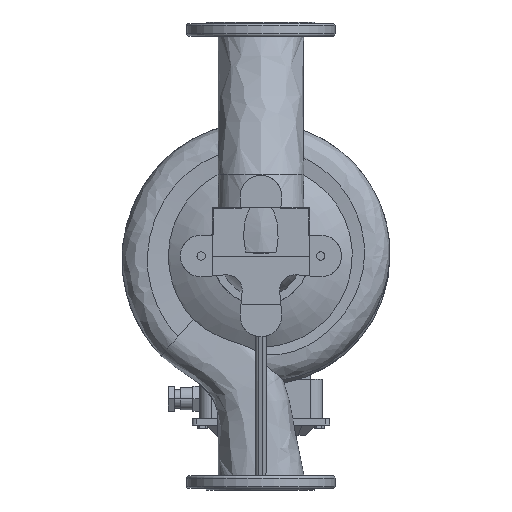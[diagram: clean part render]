
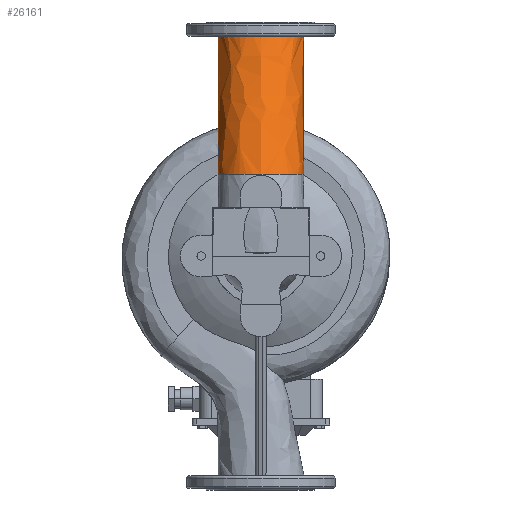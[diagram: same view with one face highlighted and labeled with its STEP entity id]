
A CAD part, front view. The second image highlights one B-rep face of the part: STEP entity #26161.
In plain terms, the highlighted free-form (B-spline) face has degree [3, 1] with [4, 2] control points.
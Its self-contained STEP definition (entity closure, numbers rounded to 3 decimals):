
#545 = CARTESIAN_POINT ( 'NONE',  ( 82.5, 0., 423. ) ) ;
#1270 = EDGE_LOOP ( 'NONE', ( #55005, #55699, #72046, #76962, #38018, #27722 ) ) ;
#4940 = CARTESIAN_POINT ( 'NONE',  ( 82.5, -165., 423. ) ) ;
#5283 = B_SPLINE_CURVE_WITH_KNOTS ( 'NONE', 1,
 ( #42527, #17632 ),
 .UNSPECIFIED., .F., .F.,
 ( 2, 2 ),
 ( 0.131, 1. ),
 .UNSPECIFIED. ) ;
#11367 = VERTEX_POINT ( 'NONE', #38052 ) ;
#11573 = DIRECTION ( 'NONE',  ( 0., 0., -1. ) ) ;
#14098 = VERTEX_POINT ( 'NONE', #47209 ) ;
#17632 = CARTESIAN_POINT ( 'NONE',  ( 82.5, 0., 423. ) ) ;
#17920 = AXIS2_PLACEMENT_3D ( 'NONE', #41290, #11573, #48129 ) ;
#18224 = CARTESIAN_POINT ( 'NONE',  ( -82.5, 0., 423. ) ) ;
#18788 = VERTEX_POINT ( 'NONE', #18224 ) ;
#19188 = VECTOR ( 'NONE', #37521, 1000. ) ;
#19577 = AXIS2_PLACEMENT_3D ( 'NONE', #20485, #38951, #26130 ) ;
#19715 =( BOUNDED_SURFACE ( )  B_SPLINE_SURFACE ( 3, 1, ( 
 ( #74054, #545 ),
 ( #37064, #4940 ),
 ( #24645, #36279 ),
 ( #61580, #78491 ) ),
 .UNSPECIFIED., .F., .F., .T. ) 
 B_SPLINE_SURFACE_WITH_KNOTS ( ( 4, 4 ),
 ( 2, 2 ),
 ( 0.5, 1. ),
 ( 0., 1. ),
 .UNSPECIFIED. ) 
 GEOMETRIC_REPRESENTATION_ITEM ( )  RATIONAL_B_SPLINE_SURFACE ( (
 ( 1., 1.),
 ( 0.333, 0.333),
 ( 0.333, 0.333),
 ( 1., 1.) ) ) 
 REPRESENTATION_ITEM ( '' )  SURFACE ( )  );
#19879 = EDGE_CURVE ( 'NONE', #11367, #25859, #74709, .T. ) ;
#20485 = CARTESIAN_POINT ( 'NONE',  ( 0., -124.083, 156.902 ) ) ;
#24645 = CARTESIAN_POINT ( 'NONE',  ( -82.5, -289.083, 156.902 ) ) ;
#25613 = EDGE_CURVE ( 'NONE', #51492, #18788, #49984, .T. ) ;
#25859 = VERTEX_POINT ( 'NONE', #65244 ) ;
#26083 = CARTESIAN_POINT ( 'NONE',  ( -82.5, -62.042, 289.951 ) ) ;
#26130 = DIRECTION ( 'NONE',  ( -1., 0., 0. ) ) ;
#26161 = ADVANCED_FACE ( 'NONE', ( #49539 ), #19715, .F. ) ;
#27722 = ORIENTED_EDGE ( 'NONE', *, *, #29953, .F. ) ;
#29953 = EDGE_CURVE ( 'NONE', #14098, #11367, #78572, .T. ) ;
#31866 = CARTESIAN_POINT ( 'NONE',  ( 82.5, -62.042, 289.951 ) ) ;
#32999 = CARTESIAN_POINT ( 'NONE',  ( -82.5, -107.873, 191.667 ) ) ;
#33040 = LINE ( 'NONE', #31866, #19188 ) ;
#36279 = CARTESIAN_POINT ( 'NONE',  ( -82.5, -165., 423. ) ) ;
#37064 = CARTESIAN_POINT ( 'NONE',  ( 82.5, -289.083, 156.902 ) ) ;
#37521 = DIRECTION ( 'NONE',  ( 0., 0.423, 0.906 ) ) ;
#38018 = ORIENTED_EDGE ( 'NONE', *, *, #19879, .F. ) ;
#38052 = CARTESIAN_POINT ( 'NONE',  ( -82.5, -124.083, 156.902 ) ) ;
#38114 = DIRECTION ( 'NONE',  ( 0., 0.423, 0.906 ) ) ;
#38951 = DIRECTION ( 'NONE',  ( 0., 0., -1. ) ) ;
#41290 = CARTESIAN_POINT ( 'NONE',  ( 0., 0., 423. ) ) ;
#42527 = CARTESIAN_POINT ( 'NONE',  ( 82.5, -107.873, 191.667 ) ) ;
#42697 = VERTEX_POINT ( 'NONE', #70032 ) ;
#43562 = EDGE_CURVE ( 'NONE', #14098, #42697, #33040, .T. ) ;
#47209 = CARTESIAN_POINT ( 'NONE',  ( 82.5, -124.083, 156.902 ) ) ;
#48129 = DIRECTION ( 'NONE',  ( -1., 0., 0. ) ) ;
#49539 = FACE_OUTER_BOUND ( 'NONE', #1270, .T. ) ;
#49984 = CIRCLE ( 'NONE', #17920, 82.5 ) ;
#51492 = VERTEX_POINT ( 'NONE', #72039 ) ;
#55005 = ORIENTED_EDGE ( 'NONE', *, *, #43562, .T. ) ;
#55699 = ORIENTED_EDGE ( 'NONE', *, *, #70761, .T. ) ;
#57130 = B_SPLINE_CURVE_WITH_KNOTS ( 'NONE', 1,
 ( #32999, #63955 ),
 .UNSPECIFIED., .F., .F.,
 ( 2, 2 ),
 ( 0.131, 1. ),
 .UNSPECIFIED. ) ;
#60051 = EDGE_CURVE ( 'NONE', #25859, #18788, #57130, .T. ) ;
#61580 = CARTESIAN_POINT ( 'NONE',  ( -82.5, -124.083, 156.902 ) ) ;
#63955 = CARTESIAN_POINT ( 'NONE',  ( -82.5, 0., 423. ) ) ;
#65244 = CARTESIAN_POINT ( 'NONE',  ( -82.5, -107.873, 191.667 ) ) ;
#70032 = CARTESIAN_POINT ( 'NONE',  ( 82.5, -107.873, 191.667 ) ) ;
#70761 = EDGE_CURVE ( 'NONE', #42697, #51492, #5283, .T. ) ;
#72039 = CARTESIAN_POINT ( 'NONE',  ( 82.5, 0., 423. ) ) ;
#72046 = ORIENTED_EDGE ( 'NONE', *, *, #25613, .T. ) ;
#74054 = CARTESIAN_POINT ( 'NONE',  ( 82.5, -124.083, 156.902 ) ) ;
#74709 = LINE ( 'NONE', #26083, #77192 ) ;
#76962 = ORIENTED_EDGE ( 'NONE', *, *, #60051, .F. ) ;
#77192 = VECTOR ( 'NONE', #38114, 1000. ) ;
#78491 = CARTESIAN_POINT ( 'NONE',  ( -82.5, 0., 423. ) ) ;
#78572 = CIRCLE ( 'NONE', #19577, 82.5 ) ;
